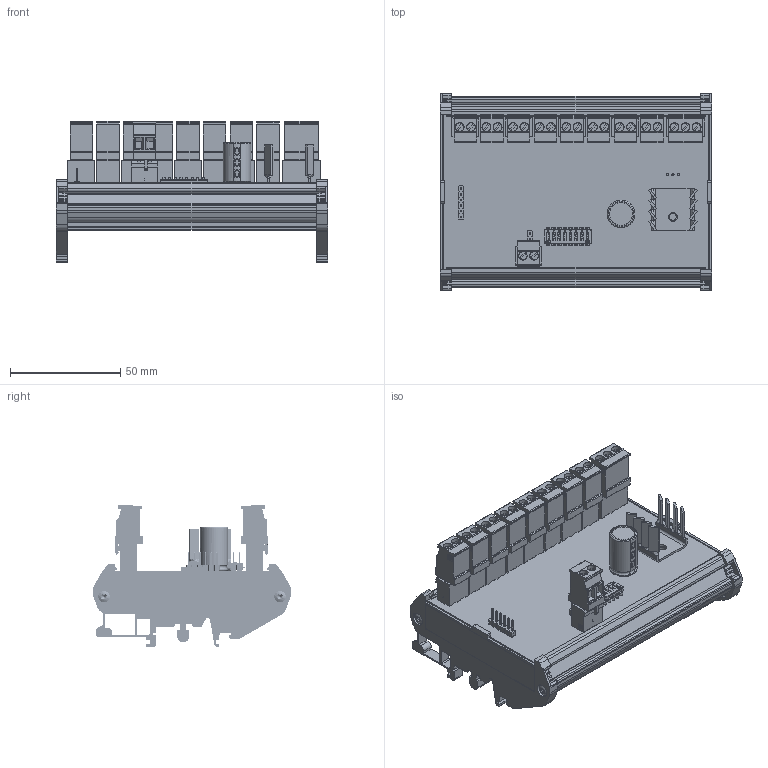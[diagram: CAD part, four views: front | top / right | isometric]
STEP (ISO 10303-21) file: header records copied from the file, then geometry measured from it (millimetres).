
FILE_DESCRIPTION(/* description */ (''),/* implementation_level */ '2;1');
FILE_NAME(/* name */ 'C:/Temp/STEP/SI-8_V100.step',/* time_stamp */ '2020-04-03T14:09:41+03:00',/* author */ (''),/* organization */ (''),/* preprocessor_version */ 'ST-DEVELOPER v18',/* originating_system */ 'Autodesk Translation Framework v8.12.0.6',/* authorisation */ '');
FILE_SCHEMA (('AUTOMOTIVE_DESIGN { 1 0 10303 214 3 1 1 }'));
Products named in the file (1): SI-8_V100
Bounding box: 123 x 89.6 x 64.02 mm (x, y, z)
Volume: 94777.6 mm3; surface area: 104548.7 mm2
Topology: 74 solids, 74 shells, 6537 faces, 17632 edges, 11576 vertices
Faces by surface type: plane 4950, cylinder 1416, bspline 61, sphere 57, cone 41, torus 12
Full cylindrical faces by diameter (mm): 0.434 x10, 0.45 x16, 0.457 x10, 0.5 x32, 0.6 x2, 0.8 x16, 1 x13, 1.4 x63, 1.71 x36, 1.9 x1, 2.404 x4, 2.8 x22, 3 x2, 3.1 x4, 3.2 x1, 3.783 x21, 4 x22, 5.15 x4, 6 x4, 10.5 x2
Entity records: 224345 total; most frequent: CARTESIAN_POINT 50086, ORIENTED_EDGE 35240, DIRECTION 34281, EDGE_CURVE 17620, LINE 13293, VECTOR 13293, VERTEX_POINT 11572, AXIS2_PLACEMENT_3D 10494
